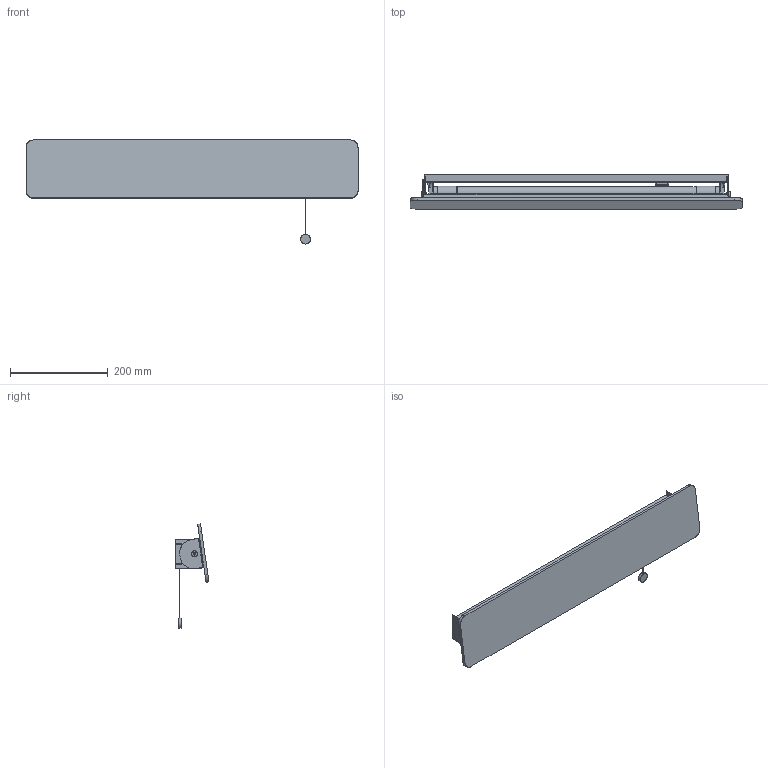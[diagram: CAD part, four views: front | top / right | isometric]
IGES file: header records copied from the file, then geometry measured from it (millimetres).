
Start section: SolidWorks IGES file using NURBS representation for surfaces
Global section: file name: Z:\Modele 3D_WWW\_KOLEKCJE_WWW\OSLO\OSLO-LED-60-7521-7517\OSLO-LED-60-7521-7517.IGS; native system: SolidWorks 2021; preprocessor: SolidWorks 2021; author: gabriela.tworek; date: 211004.100857; units: millimetre
Bounding box: 680 x 69.61 x 213.11 mm (x, y, z)
Surface area: 445003.7 mm2 (no closed solid volume)
Topology: 0 solids, 0 shells, 593 faces, 7219 edges, 7211 vertices
Faces by surface type: bspline 593
